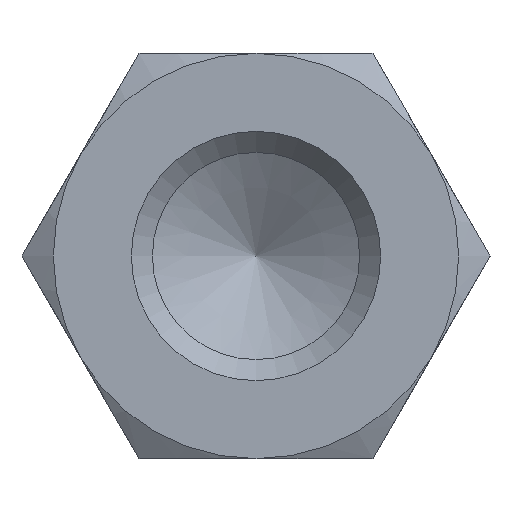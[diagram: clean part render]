
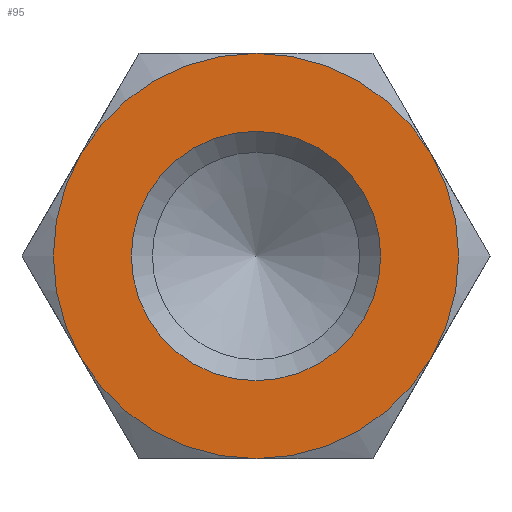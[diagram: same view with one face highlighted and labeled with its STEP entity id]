
A CAD part, left-side view. The second image highlights one B-rep face of the part: STEP entity #95.
In plain terms, the highlighted planar face has unit normal (-1, 0, 0).
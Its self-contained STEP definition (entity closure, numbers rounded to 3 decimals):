
#95 = ADVANCED_FACE( '', ( #147, #148 ), #149, .F. );
#147 = FACE_OUTER_BOUND( '', #206, .T. );
#148 = FACE_BOUND( '', #207, .T. );
#149 = PLANE( '', #208 );
#206 = EDGE_LOOP( '', ( #356, #357, #358, #359, #360, #361 ) );
#207 = EDGE_LOOP( '', ( #362 ) );
#208 = AXIS2_PLACEMENT_3D( '', #363, #364, #365 );
#356 = ORIENTED_EDGE( '', *, *, #440, .F. );
#357 = ORIENTED_EDGE( '', *, *, #425, .F. );
#358 = ORIENTED_EDGE( '', *, *, #441, .F. );
#359 = ORIENTED_EDGE( '', *, *, #437, .F. );
#360 = ORIENTED_EDGE( '', *, *, #442, .F. );
#361 = ORIENTED_EDGE( '', *, *, #443, .F. );
#362 = ORIENTED_EDGE( '', *, *, #439, .T. );
#363 = CARTESIAN_POINT( '', ( -40., 0., 0. ) );
#364 = DIRECTION( '', ( 1., 0., 0. ) );
#365 = DIRECTION( '', ( 0., 0., -1. ) );
#425 = EDGE_CURVE( '', #495, #493, #497, .T. );
#437 = EDGE_CURVE( '', #447, #506, #513, .T. );
#439 = EDGE_CURVE( '', #516, #516, #517, .T. );
#440 = EDGE_CURVE( '', #493, #486, #518, .T. );
#441 = EDGE_CURVE( '', #506, #495, #519, .T. );
#442 = EDGE_CURVE( '', #481, #447, #520, .T. );
#443 = EDGE_CURVE( '', #486, #481, #521, .T. );
#447 = VERTEX_POINT( '', #525 );
#481 = VERTEX_POINT( '', #607 );
#486 = VERTEX_POINT( '', #623 );
#493 = VERTEX_POINT( '', #650 );
#495 = VERTEX_POINT( '', #657 );
#497 = CIRCLE( '', #664, 6.5 );
#506 = VERTEX_POINT( '', #690 );
#513 = CIRCLE( '', #733, 6.5 );
#516 = VERTEX_POINT( '', #736 );
#517 = CIRCLE( '', #737, 4. );
#518 = CIRCLE( '', #738, 6.5 );
#519 = CIRCLE( '', #739, 6.5 );
#520 = CIRCLE( '', #740, 6.5 );
#521 = CIRCLE( '', #741, 6.5 );
#525 = CARTESIAN_POINT( '', ( -40., -5.629, 3.25 ) );
#607 = CARTESIAN_POINT( '', ( -40., 0., 6.5 ) );
#623 = CARTESIAN_POINT( '', ( -40., 5.629, 3.25 ) );
#650 = CARTESIAN_POINT( '', ( -40., 5.629, -3.25 ) );
#657 = CARTESIAN_POINT( '', ( -40., 0., -6.5 ) );
#664 = AXIS2_PLACEMENT_3D( '', #776, #777, #778 );
#690 = CARTESIAN_POINT( '', ( -40., -5.629, -3.25 ) );
#733 = AXIS2_PLACEMENT_3D( '', #781, #782, #783 );
#736 = CARTESIAN_POINT( '', ( -40., 4., 0. ) );
#737 = AXIS2_PLACEMENT_3D( '', #787, #788, #789 );
#738 = AXIS2_PLACEMENT_3D( '', #790, #791, #792 );
#739 = AXIS2_PLACEMENT_3D( '', #793, #794, #795 );
#740 = AXIS2_PLACEMENT_3D( '', #796, #797, #798 );
#741 = AXIS2_PLACEMENT_3D( '', #799, #800, #801 );
#776 = CARTESIAN_POINT( '', ( -40., 0., 0. ) );
#777 = DIRECTION( '', ( 1., 0., 0. ) );
#778 = DIRECTION( '', ( 0., 0., -1. ) );
#781 = CARTESIAN_POINT( '', ( -40., 0., 0. ) );
#782 = DIRECTION( '', ( 1., 0., 0. ) );
#783 = DIRECTION( '', ( 0., 0., -1. ) );
#787 = CARTESIAN_POINT( '', ( -40., 0., 0. ) );
#788 = DIRECTION( '', ( 1., 0., 0. ) );
#789 = DIRECTION( '', ( 0., 1., 0. ) );
#790 = CARTESIAN_POINT( '', ( -40., 0., 0. ) );
#791 = DIRECTION( '', ( 1., 0., 0. ) );
#792 = DIRECTION( '', ( 0., 0., -1. ) );
#793 = CARTESIAN_POINT( '', ( -40., 0., 0. ) );
#794 = DIRECTION( '', ( 1., 0., 0. ) );
#795 = DIRECTION( '', ( 0., 0., -1. ) );
#796 = CARTESIAN_POINT( '', ( -40., 0., 0. ) );
#797 = DIRECTION( '', ( 1., 0., 0. ) );
#798 = DIRECTION( '', ( 0., 0., -1. ) );
#799 = CARTESIAN_POINT( '', ( -40., 0., 0. ) );
#800 = DIRECTION( '', ( 1., 0., 0. ) );
#801 = DIRECTION( '', ( 0., 0., -1. ) );
